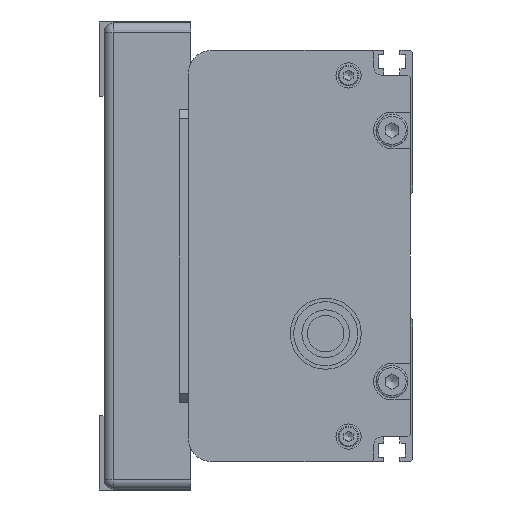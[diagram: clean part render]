
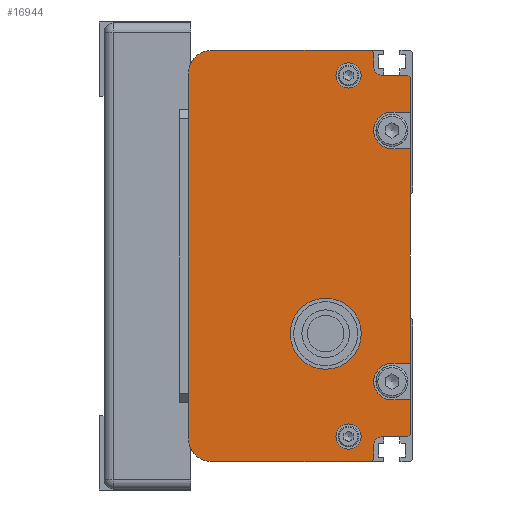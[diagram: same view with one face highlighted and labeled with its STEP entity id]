
A CAD part, left-side view. The second image highlights one B-rep face of the part: STEP entity #16944.
In plain terms, the highlighted planar face has unit normal (-1, 0, 0) as drawn and (0, 0, -1) by its records, which use the part's own axes.
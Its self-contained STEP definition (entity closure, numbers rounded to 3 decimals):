
#1076=FACE_BOUND('',#2476,.T.);
#1077=FACE_BOUND('',#2477,.T.);
#1078=FACE_BOUND('',#2478,.T.);
#1406=FACE_OUTER_BOUND('',#2475,.T.);
#2475=EDGE_LOOP('',(#11767,#11768,#11769,#11770,#11771,#11772,#11773,#11774,
#11775,#11776,#11777,#11778,#11779,#11780,#11781,#11782,#11783,#11784,#11785,
#11786,#11787,#11788,#11789,#11790));
#2476=EDGE_LOOP('',(#11791));
#2477=EDGE_LOOP('',(#11792));
#2478=EDGE_LOOP('',(#11793));
#3765=LINE('',#24545,#5263);
#3791=LINE('',#24612,#5289);
#3793=LINE('',#24617,#5291);
#3794=LINE('',#24619,#5292);
#3795=LINE('',#24622,#5293);
#3796=LINE('',#24624,#5294);
#3797=LINE('',#24626,#5295);
#3798=LINE('',#24630,#5296);
#3799=LINE('',#24632,#5297);
#3800=LINE('',#24634,#5298);
#3801=LINE('',#24638,#5299);
#3802=LINE('',#24640,#5300);
#3803=LINE('',#24642,#5301);
#3804=LINE('',#24644,#5302);
#3805=LINE('',#24648,#5303);
#3806=LINE('',#24650,#5304);
#3807=LINE('',#24651,#5305);
#3808=LINE('',#24652,#5306);
#5263=VECTOR('',#19938,80.);
#5289=VECTOR('',#19990,0.707);
#5291=VECTOR('',#19994,0.707);
#5292=VECTOR('',#19995,3.);
#5293=VECTOR('',#19998,5.5);
#5294=VECTOR('',#19999,7.5);
#5295=VECTOR('',#20000,4.);
#5296=VECTOR('',#20003,4.);
#5297=VECTOR('',#20004,47.);
#5298=VECTOR('',#20005,4.);
#5299=VECTOR('',#20008,4.);
#5300=VECTOR('',#20009,7.5);
#5301=VECTOR('',#20010,0.707);
#5302=VECTOR('',#20011,5.5);
#5303=VECTOR('',#20014,3.);
#5304=VECTOR('',#20015,0.707);
#5305=VECTOR('',#20016,35.);
#5306=VECTOR('',#20017,35.);
#6648=CIRCLE('',#18096,5.);
#6651=CIRCLE('',#18103,5.);
#6653=CIRCLE('',#18109,2.);
#6654=CIRCLE('',#18110,4.);
#6655=CIRCLE('',#18111,4.);
#6656=CIRCLE('',#18112,2.);
#6657=CIRCLE('',#18113,7.769);
#6658=CIRCLE('',#18114,2.75);
#6659=CIRCLE('',#18115,2.75);
#7251=VERTEX_POINT('',#24542);
#7252=VERTEX_POINT('',#24544);
#7253=VERTEX_POINT('',#24548);
#7256=VERTEX_POINT('',#24559);
#7279=VERTEX_POINT('',#24609);
#7280=VERTEX_POINT('',#24611);
#7281=VERTEX_POINT('',#24615);
#7282=VERTEX_POINT('',#24616);
#7283=VERTEX_POINT('',#24618);
#7284=VERTEX_POINT('',#24620);
#7285=VERTEX_POINT('',#24623);
#7286=VERTEX_POINT('',#24625);
#7287=VERTEX_POINT('',#24627);
#7288=VERTEX_POINT('',#24629);
#7289=VERTEX_POINT('',#24631);
#7290=VERTEX_POINT('',#24633);
#7291=VERTEX_POINT('',#24635);
#7292=VERTEX_POINT('',#24637);
#7293=VERTEX_POINT('',#24639);
#7294=VERTEX_POINT('',#24641);
#7295=VERTEX_POINT('',#24643);
#7296=VERTEX_POINT('',#24645);
#7297=VERTEX_POINT('',#24647);
#7298=VERTEX_POINT('',#24649);
#7299=VERTEX_POINT('',#24653);
#7300=VERTEX_POINT('',#24655);
#7301=VERTEX_POINT('',#24657);
#9033=EDGE_CURVE('',#7251,#7252,#3765,.T.);
#9035=EDGE_CURVE('',#7252,#7253,#6648,.T.);
#9040=EDGE_CURVE('',#7256,#7251,#6651,.T.);
#9064=EDGE_CURVE('',#7279,#7280,#3791,.T.);
#9066=EDGE_CURVE('',#7281,#7282,#3793,.T.);
#9067=EDGE_CURVE('',#7281,#7283,#3794,.T.);
#9068=EDGE_CURVE('',#7283,#7284,#6653,.T.);
#9069=EDGE_CURVE('',#7284,#7280,#3795,.T.);
#9070=EDGE_CURVE('',#7285,#7279,#3796,.T.);
#9071=EDGE_CURVE('',#7285,#7286,#3797,.T.);
#9072=EDGE_CURVE('',#7286,#7287,#6654,.T.);
#9073=EDGE_CURVE('',#7287,#7288,#3798,.T.);
#9074=EDGE_CURVE('',#7289,#7288,#3799,.T.);
#9075=EDGE_CURVE('',#7289,#7290,#3800,.T.);
#9076=EDGE_CURVE('',#7290,#7291,#6655,.T.);
#9077=EDGE_CURVE('',#7291,#7292,#3801,.T.);
#9078=EDGE_CURVE('',#7293,#7292,#3802,.T.);
#9079=EDGE_CURVE('',#7294,#7293,#3803,.T.);
#9080=EDGE_CURVE('',#7294,#7295,#3804,.T.);
#9081=EDGE_CURVE('',#7295,#7296,#6656,.T.);
#9082=EDGE_CURVE('',#7296,#7297,#3805,.T.);
#9083=EDGE_CURVE('',#7298,#7297,#3806,.T.);
#9084=EDGE_CURVE('',#7253,#7298,#3807,.T.);
#9085=EDGE_CURVE('',#7282,#7256,#3808,.T.);
#9086=EDGE_CURVE('',#7299,#7299,#6657,.T.);
#9087=EDGE_CURVE('',#7300,#7300,#6658,.T.);
#9088=EDGE_CURVE('',#7301,#7301,#6659,.T.);
#11767=ORIENTED_EDGE('',*,*,#9066,.F.);
#11768=ORIENTED_EDGE('',*,*,#9067,.T.);
#11769=ORIENTED_EDGE('',*,*,#9068,.T.);
#11770=ORIENTED_EDGE('',*,*,#9069,.T.);
#11771=ORIENTED_EDGE('',*,*,#9064,.F.);
#11772=ORIENTED_EDGE('',*,*,#9070,.F.);
#11773=ORIENTED_EDGE('',*,*,#9071,.T.);
#11774=ORIENTED_EDGE('',*,*,#9072,.T.);
#11775=ORIENTED_EDGE('',*,*,#9073,.T.);
#11776=ORIENTED_EDGE('',*,*,#9074,.F.);
#11777=ORIENTED_EDGE('',*,*,#9075,.T.);
#11778=ORIENTED_EDGE('',*,*,#9076,.T.);
#11779=ORIENTED_EDGE('',*,*,#9077,.T.);
#11780=ORIENTED_EDGE('',*,*,#9078,.F.);
#11781=ORIENTED_EDGE('',*,*,#9079,.F.);
#11782=ORIENTED_EDGE('',*,*,#9080,.T.);
#11783=ORIENTED_EDGE('',*,*,#9081,.T.);
#11784=ORIENTED_EDGE('',*,*,#9082,.T.);
#11785=ORIENTED_EDGE('',*,*,#9083,.F.);
#11786=ORIENTED_EDGE('',*,*,#9084,.F.);
#11787=ORIENTED_EDGE('',*,*,#9035,.F.);
#11788=ORIENTED_EDGE('',*,*,#9033,.F.);
#11789=ORIENTED_EDGE('',*,*,#9040,.F.);
#11790=ORIENTED_EDGE('',*,*,#9085,.F.);
#11791=ORIENTED_EDGE('',*,*,#9086,.T.);
#11792=ORIENTED_EDGE('',*,*,#9087,.T.);
#11793=ORIENTED_EDGE('',*,*,#9088,.T.);
#16334=PLANE('',#18108);
#16944=ADVANCED_FACE('',(#1406,#1076,#1077,#1078),#16334,.F.);
#18096=AXIS2_PLACEMENT_3D('',#24549,#19942,#19943);
#18103=AXIS2_PLACEMENT_3D('',#24561,#19958,#19959);
#18108=AXIS2_PLACEMENT_3D('',#24614,#19992,#19993);
#18109=AXIS2_PLACEMENT_3D('',#24621,#19996,#19997);
#18110=AXIS2_PLACEMENT_3D('',#24628,#20001,#20002);
#18111=AXIS2_PLACEMENT_3D('',#24636,#20006,#20007);
#18112=AXIS2_PLACEMENT_3D('',#24646,#20012,#20013);
#18113=AXIS2_PLACEMENT_3D('',#24654,#20018,#20019);
#18114=AXIS2_PLACEMENT_3D('',#24656,#20020,#20021);
#18115=AXIS2_PLACEMENT_3D('',#24658,#20022,#20023);
#19938=DIRECTION('',(-1.,0.,0.));
#19942=DIRECTION('center_axis',(0.,0.,1.));
#19943=DIRECTION('ref_axis',(0.,1.,0.));
#19958=DIRECTION('center_axis',(0.,0.,1.));
#19959=DIRECTION('ref_axis',(1.,0.,0.));
#19990=DIRECTION('',(0.707,0.707,0.));
#19992=DIRECTION('center_axis',(0.,0.,1.));
#19993=DIRECTION('ref_axis',(1.,0.,0.));
#19994=DIRECTION('',(0.707,0.707,0.));
#19995=DIRECTION('',(-1.,0.,0.));
#19996=DIRECTION('center_axis',(0.,0.,1.));
#19997=DIRECTION('ref_axis',(0.,1.,0.));
#19998=DIRECTION('',(0.,-1.,0.));
#19999=DIRECTION('',(1.,0.,0.));
#20000=DIRECTION('',(0.,1.,0.));
#20001=DIRECTION('center_axis',(0.,0.,1.));
#20002=DIRECTION('ref_axis',(-1.,0.,0.));
#20003=DIRECTION('',(0.,-1.,0.));
#20004=DIRECTION('',(1.,0.,0.));
#20005=DIRECTION('',(0.,1.,0.));
#20006=DIRECTION('center_axis',(0.,0.,1.));
#20007=DIRECTION('ref_axis',(-1.,0.,0.));
#20008=DIRECTION('',(0.,-1.,0.));
#20009=DIRECTION('',(1.,0.,0.));
#20010=DIRECTION('',(0.707,-0.707,0.));
#20011=DIRECTION('',(0.,1.,0.));
#20012=DIRECTION('center_axis',(0.,0.,1.));
#20013=DIRECTION('ref_axis',(-1.,0.,0.));
#20014=DIRECTION('',(-1.,0.,0.));
#20015=DIRECTION('',(0.707,-0.707,0.));
#20016=DIRECTION('',(0.,-1.,0.));
#20017=DIRECTION('',(0.,1.,0.));
#20018=DIRECTION('center_axis',(0.,0.,1.));
#20019=DIRECTION('ref_axis',(0.766,-0.643,0.));
#20020=DIRECTION('center_axis',(0.,0.,1.));
#20021=DIRECTION('ref_axis',(-1.,0.,0.));
#20022=DIRECTION('center_axis',(0.,0.,1.));
#20023=DIRECTION('ref_axis',(-1.,0.,0.));
#24542=CARTESIAN_POINT('',(37.988,51.846,-497.249));
#24544=CARTESIAN_POINT('',(-42.012,51.846,-497.249));
#24545=CARTESIAN_POINT('',(37.988,51.846,-497.249));
#24548=CARTESIAN_POINT('',(-47.012,46.846,-497.249));
#24549=CARTESIAN_POINT('Origin',(-42.012,46.846,-497.249));
#24559=CARTESIAN_POINT('',(42.988,46.846,-497.249));
#24561=CARTESIAN_POINT('Origin',(37.988,46.846,-497.249));
#24609=CARTESIAN_POINT('',(36.988,3.346,-497.249));
#24611=CARTESIAN_POINT('',(37.488,3.846,-497.249));
#24612=CARTESIAN_POINT('',(36.988,3.346,-497.249));
#24614=CARTESIAN_POINT('Origin',(-2.012,27.249,-497.249));
#24615=CARTESIAN_POINT('',(42.488,11.346,-497.249));
#24616=CARTESIAN_POINT('',(42.988,11.846,-497.249));
#24617=CARTESIAN_POINT('',(42.488,11.346,-497.249));
#24618=CARTESIAN_POINT('',(39.488,11.346,-497.249));
#24619=CARTESIAN_POINT('',(42.488,11.346,-497.249));
#24620=CARTESIAN_POINT('',(37.488,9.346,-497.249));
#24621=CARTESIAN_POINT('Origin',(39.488,9.346,-497.249));
#24622=CARTESIAN_POINT('',(37.488,9.346,-497.249));
#24623=CARTESIAN_POINT('',(29.488,3.346,-497.249));
#24624=CARTESIAN_POINT('',(29.488,3.346,-497.249));
#24625=CARTESIAN_POINT('',(29.488,7.346,-497.249));
#24626=CARTESIAN_POINT('',(29.488,3.346,-497.249));
#24627=CARTESIAN_POINT('',(21.488,7.346,-497.249));
#24628=CARTESIAN_POINT('Origin',(25.488,7.346,-497.249));
#24629=CARTESIAN_POINT('',(21.488,3.346,-497.249));
#24630=CARTESIAN_POINT('',(21.488,7.346,-497.249));
#24631=CARTESIAN_POINT('',(-25.512,3.346,-497.249));
#24632=CARTESIAN_POINT('',(-25.512,3.346,-497.249));
#24633=CARTESIAN_POINT('',(-25.512,7.346,-497.249));
#24634=CARTESIAN_POINT('',(-25.512,3.346,-497.249));
#24635=CARTESIAN_POINT('',(-33.512,7.346,-497.249));
#24636=CARTESIAN_POINT('Origin',(-29.512,7.346,-497.249));
#24637=CARTESIAN_POINT('',(-33.512,3.346,-497.249));
#24638=CARTESIAN_POINT('',(-33.512,7.346,-497.249));
#24639=CARTESIAN_POINT('',(-41.012,3.346,-497.249));
#24640=CARTESIAN_POINT('',(-41.012,3.346,-497.249));
#24641=CARTESIAN_POINT('',(-41.512,3.846,-497.249));
#24642=CARTESIAN_POINT('',(-41.512,3.846,-497.249));
#24643=CARTESIAN_POINT('',(-41.512,9.346,-497.249));
#24644=CARTESIAN_POINT('',(-41.512,3.846,-497.249));
#24645=CARTESIAN_POINT('',(-43.512,11.346,-497.249));
#24646=CARTESIAN_POINT('Origin',(-43.512,9.346,-497.249));
#24647=CARTESIAN_POINT('',(-46.512,11.346,-497.249));
#24648=CARTESIAN_POINT('',(-43.512,11.346,-497.249));
#24649=CARTESIAN_POINT('',(-47.012,11.846,-497.249));
#24650=CARTESIAN_POINT('',(-47.012,11.846,-497.249));
#24651=CARTESIAN_POINT('',(-47.012,46.846,-497.249));
#24652=CARTESIAN_POINT('',(42.988,11.846,-497.249));
#24653=CARTESIAN_POINT('',(20.939,16.853,-497.249));
#24654=CARTESIAN_POINT('Origin',(14.988,21.846,-497.249));
#24655=CARTESIAN_POINT('',(34.738,16.846,-497.249));
#24656=CARTESIAN_POINT('Origin',(37.488,16.846,-497.249));
#24657=CARTESIAN_POINT('',(-44.262,16.846,-497.249));
#24658=CARTESIAN_POINT('Origin',(-41.512,16.846,-497.249));
